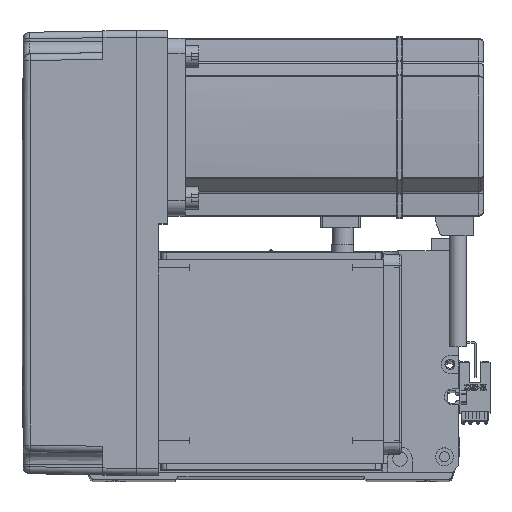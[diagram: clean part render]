
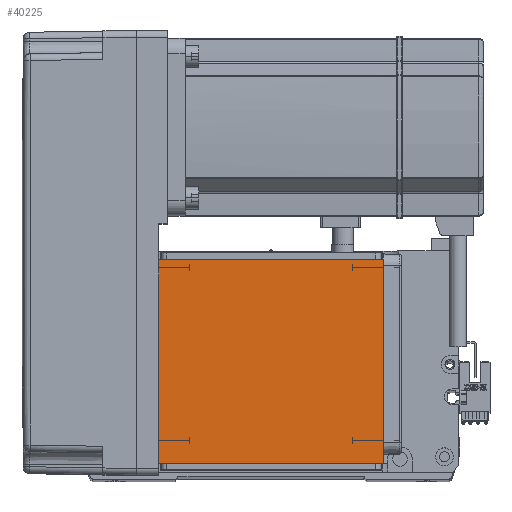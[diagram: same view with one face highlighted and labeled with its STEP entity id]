
A CAD part, top view. The second image highlights one B-rep face of the part: STEP entity #40225.
In plain terms, the highlighted planar face has unit normal (0, 0, 1).
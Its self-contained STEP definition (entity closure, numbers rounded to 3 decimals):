
#1324 = EDGE_CURVE ( 'NONE', #16280, #5988, #42404, .T. ) ;
#2376 = ORIENTED_EDGE ( 'NONE', *, *, #6209, .F. ) ;
#2851 = CARTESIAN_POINT ( 'NONE',  ( 50.5, 111.5, 115. ) ) ;
#2874 = DIRECTION ( 'NONE',  ( 1., 0., 0. ) ) ;
#5988 = VERTEX_POINT ( 'NONE', #2851 ) ;
#6209 = EDGE_CURVE ( 'NONE', #41713, #54132, #49342, .T. ) ;
#6471 = FACE_OUTER_BOUND ( 'NONE', #34905, .T. ) ;
#9501 = VECTOR ( 'NONE', #18062, 1000. ) ;
#10310 = VECTOR ( 'NONE', #2874, 1000. ) ;
#13403 = CARTESIAN_POINT ( 'NONE',  ( -50.5, 122., 115. ) ) ;
#13644 = CARTESIAN_POINT ( 'NONE',  ( -70.004, 20., 115. ) ) ;
#13679 = ORIENTED_EDGE ( 'NONE', *, *, #17111, .T. ) ;
#16280 = VERTEX_POINT ( 'NONE', #53752 ) ;
#17111 = EDGE_CURVE ( 'NONE', #16280, #54132, #17302, .T. ) ;
#17302 = LINE ( 'NONE', #13403, #26201 ) ;
#17777 = ORIENTED_EDGE ( 'NONE', *, *, #1324, .F. ) ;
#18062 = DIRECTION ( 'NONE',  ( 0., 1., 0. ) ) ;
#22641 = CARTESIAN_POINT ( 'NONE',  ( 50.5, 122., 115. ) ) ;
#26201 = VECTOR ( 'NONE', #43957, 1000. ) ;
#29012 = CARTESIAN_POINT ( 'NONE',  ( -70.004, 111.5, 115. ) ) ;
#34497 = AXIS2_PLACEMENT_3D ( 'NONE', #40576, #44559, #35990 ) ;
#34905 = EDGE_LOOP ( 'NONE', ( #17777, #13679, #2376, #56358 ) ) ;
#35445 = DIRECTION ( 'NONE',  ( -1., 0., 0. ) ) ;
#35819 = PLANE ( 'NONE',  #34497 ) ;
#35990 = DIRECTION ( 'NONE',  ( 1., 0., 0. ) ) ;
#36837 = LINE ( 'NONE', #22641, #9501 ) ;
#40225 = ADVANCED_FACE ( 'NONE', ( #6471 ), #35819, .T. ) ;
#40576 = CARTESIAN_POINT ( 'NONE',  ( 0., 0., 115. ) ) ;
#41608 = CARTESIAN_POINT ( 'NONE',  ( -50.5, 20., 115. ) ) ;
#41713 = VERTEX_POINT ( 'NONE', #50618 ) ;
#42404 = LINE ( 'NONE', #29012, #10310 ) ;
#43957 = DIRECTION ( 'NONE',  ( 0., -1., 0. ) ) ;
#44559 = DIRECTION ( 'NONE',  ( 0., 0., 1. ) ) ;
#45928 = VECTOR ( 'NONE', #35445, 1000. ) ;
#49342 = LINE ( 'NONE', #13644, #45928 ) ;
#50618 = CARTESIAN_POINT ( 'NONE',  ( 50.5, 20., 115. ) ) ;
#53752 = CARTESIAN_POINT ( 'NONE',  ( -50.5, 111.5, 115. ) ) ;
#54132 = VERTEX_POINT ( 'NONE', #41608 ) ;
#55209 = EDGE_CURVE ( 'NONE', #41713, #5988, #36837, .T. ) ;
#56358 = ORIENTED_EDGE ( 'NONE', *, *, #55209, .T. ) ;
